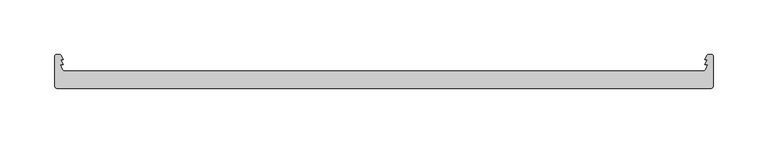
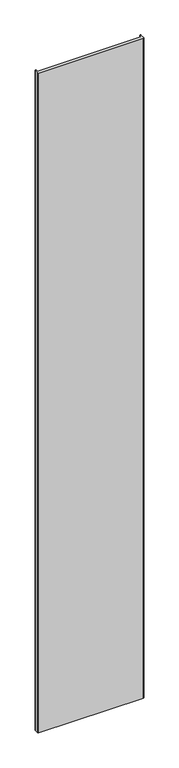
"""IFC4 building model written with IfcOpenShell, lengths in millimetres: plate geometry, Walls_Curtain-Walls_Danpal_VRS-System : Walls_Curtain-Walls_Danpal_VRS-System."""

from ifc_helpers import new_model, si_unit, point, frame_2d, origin, origin_with_axes, place, context, project, spatial, polyline, circle_curve, trimmed, segment, composite_curve, outline, extrude, source, transform, mapped, element, save


def plate_1be38f5d(model_context):
    return source(origin(), model_context, "Body", "SweptSolid", [
        extrude(outline(composite_curve([segment(polyline([(296.8491187, 0.0), (-297.8491187, 0.0)]), True, "CONTINUOUS"), segment(trimmed(circle_curve(frame_2d((-297.8491187, 2.6508813)), 2.6508813), [point((-297.8491187, 0.0))], [point((-300.5, 2.6508813))], False, "CARTESIAN"), True, "CONTINUOUS"), segment(polyline([(-300.5, 2.6508813), (-300.5, 29.6745594)]), True, "CONTINUOUS"), segment(trimmed(circle_curve(frame_2d((-299.1745594, 29.6745594)), 1.3254406), [point((-300.5, 29.6745594))], [point((-299.1745594, 31.0))], False, "CARTESIAN"), True, "CONTINUOUS"), segment(polyline([(-299.1745594, 31.0), (-296.1998904, 31.0)]), True, "CONTINUOUS"), segment(trimmed(circle_curve(frame_2d((-296.1998904, 29.5)), 1.5), [point((-296.1998904, 31.0))], [point((-294.8615937, 30.1774675))], False, "CARTESIAN"), True, "CONTINUOUS"), segment(polyline([(-294.8615937, 30.1774675), (-293.0, 26.5), (-295.1714966, 26.5), (-293.0, 22.2103379), (-295.4106029, 22.2103379), (-293.6451446, 17.3207839)]), True, "CONTINUOUS"), segment(trimmed(circle_curve(frame_2d((-291.7640105, 18.0)), 2.0), [point((-293.6451446, 17.3207839))], [point((-291.7640105, 16.0))], True, "CARTESIAN"), True, "CONTINUOUS"), segment(polyline([(-291.7640105, 16.0), (290.7640105, 16.0)]), True, "CONTINUOUS"), segment(trimmed(circle_curve(frame_2d((290.7640105, 18.0)), 2.0), [point((290.7640105, 16.0))], [point((292.6451446, 17.3207839))], True, "CARTESIAN"), True, "CONTINUOUS"), segment(polyline([(292.6451446, 17.3207839), (294.4106029, 22.2103379), (292.0, 22.2103379), (294.1714966, 26.5), (292.0, 26.5), (293.8615937, 30.1774675)]), True, "CONTINUOUS"), segment(trimmed(circle_curve(frame_2d((295.1998904, 29.5)), 1.5), [point((293.8615937, 30.1774675))], [point((295.1998904, 31.0))], False, "CARTESIAN"), True, "CONTINUOUS"), segment(polyline([(295.1998904, 31.0), (298.1745594, 31.0)]), True, "CONTINUOUS"), segment(trimmed(circle_curve(frame_2d((298.1745594, 29.6745594)), 1.3254406), [point((298.1745594, 31.0))], [point((299.5, 29.6745594))], False, "CARTESIAN"), True, "CONTINUOUS"), segment(polyline([(299.5, 29.6745594), (299.5, 2.6508813)]), True, "CONTINUOUS"), segment(trimmed(circle_curve(frame_2d((296.8491187, 2.6508813)), 2.6508813), [point((299.5, 2.6508813))], [point((296.8491187, 0.0))], False, "CARTESIAN"), True, "CONTINUOUS")], self_intersect=False)), origin_with_axes(), (0.0, 0.0, 1.0), 3938.1633646),
    ])


if __name__ == "__main__":
    model = new_model("IFC4")
    model_context = context("Model", 3, world=origin())
    ifc_project = project(units=[si_unit("LENGTHUNIT", "METRE", prefix="MILLI")], contexts=[model_context])
    site = spatial("IfcSite", under=ifc_project)
    building = spatial("IfcBuilding", under=site)
    placement = place(None, origin())
    plate_shape = plate_1be38f5d(model_context)
    element("IfcPlate", 1, ObjectType="Walls_Curtain-Walls_Danpal_VRS-System : Walls_Curtain-Walls_Danpal_VRS-System", at=placement, inside=building, context=model_context, shape_type="MappedRepresentation", body=[
        mapped(plate_shape, transform((0.0, 0.0, 0.0), x_axis=(1.0, 0.0, 0.0), y_axis=(0.0, 1.0, 0.0), z_axis=(0.0, 0.0, 1.0))),
    ])
    save(model, "model.ifc")
